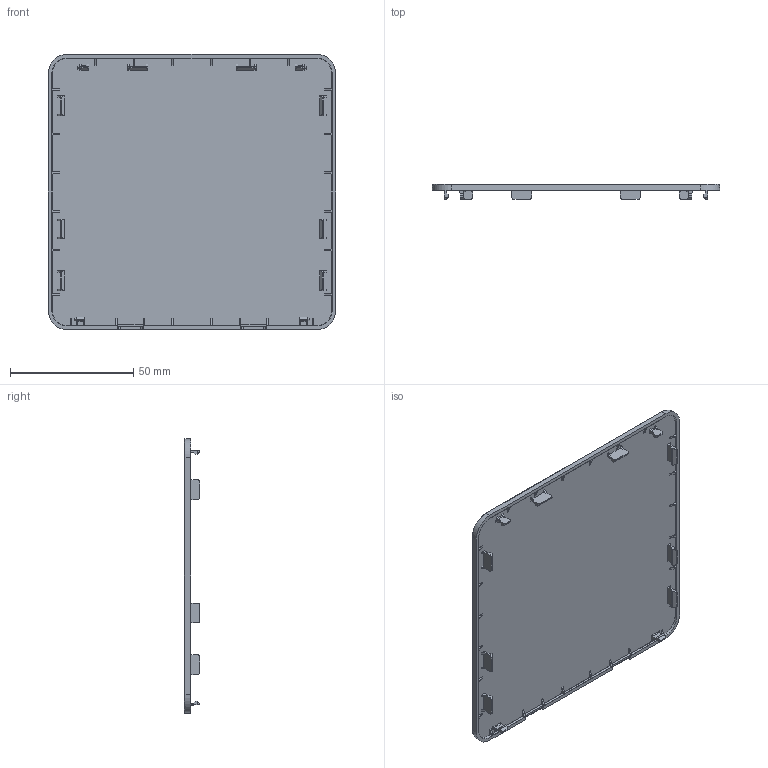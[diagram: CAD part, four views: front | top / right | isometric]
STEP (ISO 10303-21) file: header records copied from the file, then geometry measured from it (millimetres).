
FILE_DESCRIPTION((''),'2;1');
FILE_NAME('AN_TOP_COVER_LOGO','2023-01-30T11:46:22',('Daniel_Den'),(''),'CREO PARAMETRIC BY PTC INC, 2020184','CREO PARAMETRIC BY PTC INC, 2020184','');
FILE_SCHEMA(('AUTOMOTIVE_DESIGN { 1 0 10303 214 1 1 1 1 }'));
Length unit declared in the file: millimetre
Products named in the file (1): AN_TOP_COVER_LOGO
Bounding box: 116.81 x 6.1 x 111.81 mm (x, y, z)
Volume: 20440.7 mm3; surface area: 28768 mm2
Topology: 1 solids, 11 shells, 341 faces, 1450 edges, 1134 vertices
Faces by surface type: plane 273, cylinder 52, cone 12, torus 4
Entity records: 19738 total; most frequent: CARTESIAN_POINT 2726, DIRECTION 2249, ORIENTED_EDGE 1916, PRESENTATION_STYLE_ASSIGNMENT 1508, STYLED_ITEM 1463, CURVE_STYLE 1455, VECTOR 1294, LINE 1294
